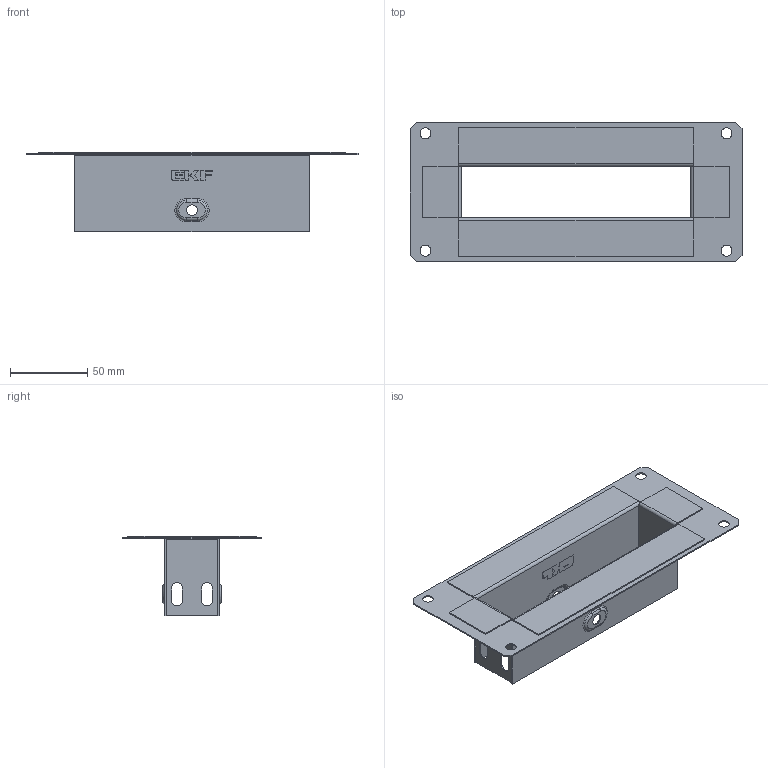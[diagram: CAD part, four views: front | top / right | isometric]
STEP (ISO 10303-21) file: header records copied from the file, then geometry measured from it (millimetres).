
FILE_DESCRIPTION (( 'STEP AP203' ), '1' );
FILE_NAME ('f35150_捘.STEP', '2020-01-23T12:28:21', ( '' ), ( '' ), 'SwSTEP 2.0', 'SolidWorks 2016', '' );
FILE_SCHEMA (( 'CONFIG_CONTROL_DESIGN' ));
Length unit declared in the file: millimetre
Products named in the file (9): f3550_3; f35150_捘; f35150_1; f35150_2
Assembly tree (5 placements, depth 2):
  f35150_捘
    f35150_1
    f35150_2  x2
    f3550_3  x2
  f35150_1
  f35150_2
  f35150_2
  f3550_3
Bounding box: 215 x 90 x 51.5 mm (x, y, z)
Volume: 32757.5 mm3; surface area: 83971 mm2
Topology: 5 solids, 5 shells, 306 faces, 792 edges, 512 vertices
Faces by surface type: plane 212, cylinder 60, bspline 18, torus 16
Entity records: 6262 total; most frequent: CARTESIAN_POINT 1358, ORIENTED_EDGE 852, DIRECTION 816, EDGE_CURVE 426, VECTOR 328, LINE 328, VERTEX_POINT 276, AXIS2_PLACEMENT_3D 244
